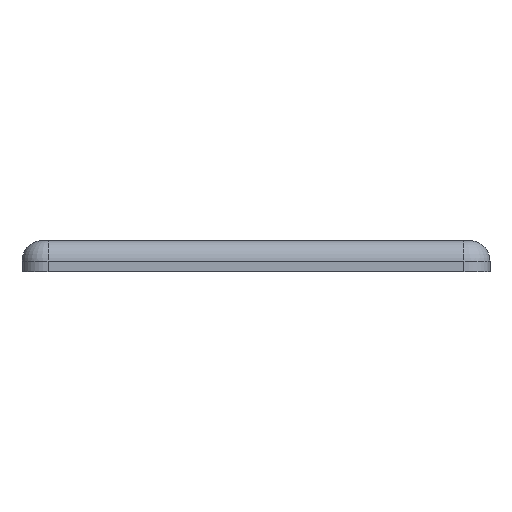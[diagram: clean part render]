
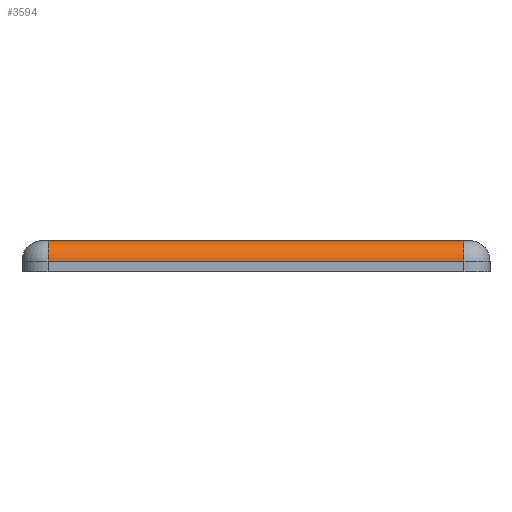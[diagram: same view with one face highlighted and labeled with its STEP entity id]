
A CAD part, front view. The second image highlights one B-rep face of the part: STEP entity #3594.
In plain terms, the highlighted cylindrical face has radius 2 mm (diameter 4 mm), a partial arc.
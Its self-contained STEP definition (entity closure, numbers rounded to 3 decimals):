
#141 = DIRECTION ( 'NONE',  ( -1., 0., 0. ) ) ;
#254 = DIRECTION ( 'NONE',  ( -1., 0., 0. ) ) ;
#308 = CARTESIAN_POINT ( 'NONE',  ( -22.5, -67.5, 1. ) ) ;
#335 = ORIENTED_EDGE ( 'NONE', *, *, #3533, .F. ) ;
#1054 = CYLINDRICAL_SURFACE ( 'NONE', #1981, 2. ) ;
#1981 = AXIS2_PLACEMENT_3D ( 'NONE', #3357, #2679, #4288 ) ;
#2373 = ORIENTED_EDGE ( 'NONE', *, *, #7775, .F. ) ;
#2418 = DIRECTION ( 'NONE',  ( 1., 0., 0. ) ) ;
#2626 = VERTEX_POINT ( 'NONE', #3459 ) ;
#2679 = DIRECTION ( 'NONE',  ( 1., 0., 0. ) ) ;
#2768 = CARTESIAN_POINT ( 'NONE',  ( -20., -67.5, 1. ) ) ;
#3092 = VERTEX_POINT ( 'NONE', #2768 ) ;
#3357 = CARTESIAN_POINT ( 'NONE',  ( 0., -65.5, 1. ) ) ;
#3440 = AXIS2_PLACEMENT_3D ( 'NONE', #8827, #141, #3482 ) ;
#3459 = CARTESIAN_POINT ( 'NONE',  ( 20., -65.5, 3. ) ) ;
#3482 = DIRECTION ( 'NONE',  ( 0., -1., 0. ) ) ;
#3533 = EDGE_CURVE ( 'NONE', #2626, #7926, #3648, .T. ) ;
#3594 = ADVANCED_FACE ( 'NONE', ( #8176 ), #1054, .T. ) ;
#3648 = CIRCLE ( 'NONE', #7783, 2. ) ;
#3825 = EDGE_CURVE ( 'NONE', #7926, #3092, #7420, .T. ) ;
#4288 = DIRECTION ( 'NONE',  ( 0., 1., 0. ) ) ;
#4564 = CARTESIAN_POINT ( 'NONE',  ( 20., -67.5, 1. ) ) ;
#5086 = CIRCLE ( 'NONE', #3440, 2. ) ;
#5373 = EDGE_LOOP ( 'NONE', ( #2373, #6638, #335, #6485 ) ) ;
#5960 = CARTESIAN_POINT ( 'NONE',  ( 0., -65.5, 3. ) ) ;
#6254 = CARTESIAN_POINT ( 'NONE',  ( 20., -65.5, 1. ) ) ;
#6475 = LINE ( 'NONE', #5960, #8245 ) ;
#6485 = ORIENTED_EDGE ( 'NONE', *, *, #7807, .F. ) ;
#6521 = CARTESIAN_POINT ( 'NONE',  ( -20., -65.5, 3. ) ) ;
#6638 = ORIENTED_EDGE ( 'NONE', *, *, #3825, .F. ) ;
#6893 = DIRECTION ( 'NONE',  ( 1., 0., 0. ) ) ;
#7277 = VECTOR ( 'NONE', #254, 1000. ) ;
#7420 = LINE ( 'NONE', #308, #7277 ) ;
#7775 = EDGE_CURVE ( 'NONE', #3092, #7797, #5086, .T. ) ;
#7783 = AXIS2_PLACEMENT_3D ( 'NONE', #6254, #2418, #8021 ) ;
#7797 = VERTEX_POINT ( 'NONE', #6521 ) ;
#7807 = EDGE_CURVE ( 'NONE', #7797, #2626, #6475, .T. ) ;
#7926 = VERTEX_POINT ( 'NONE', #4564 ) ;
#8021 = DIRECTION ( 'NONE',  ( 0., 1., 0. ) ) ;
#8176 = FACE_OUTER_BOUND ( 'NONE', #5373, .T. ) ;
#8245 = VECTOR ( 'NONE', #6893, 1000. ) ;
#8827 = CARTESIAN_POINT ( 'NONE',  ( -20., -65.5, 1. ) ) ;
